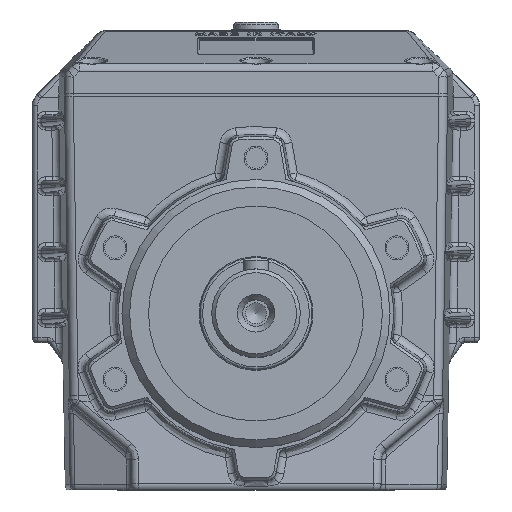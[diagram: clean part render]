
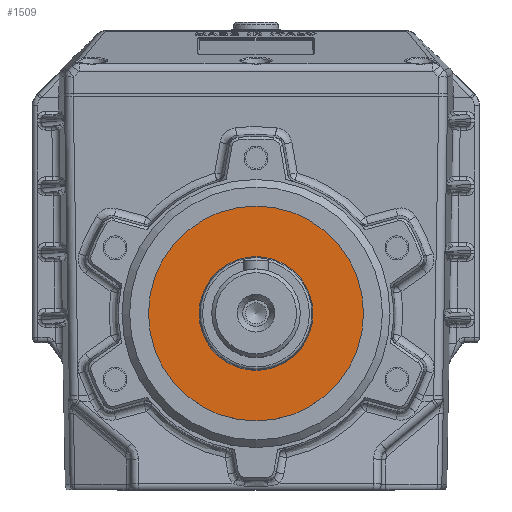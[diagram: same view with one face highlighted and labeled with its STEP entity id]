
A CAD part, top view. The second image highlights one B-rep face of the part: STEP entity #1509.
In plain terms, the highlighted planar face has unit normal (0, 0, 1).
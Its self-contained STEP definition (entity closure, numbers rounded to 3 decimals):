
#1509 = ADVANCED_FACE( '', ( #4099, #4100 ), #4101, .F. );
#4099 = FACE_BOUND( '', #9148, .T. );
#4100 = FACE_OUTER_BOUND( '', #9149, .T. );
#4101 = PLANE( '', #9150 );
#9148 = EDGE_LOOP( '', ( #20377 ) );
#9149 = EDGE_LOOP( '', ( #20378 ) );
#9150 = AXIS2_PLACEMENT_3D( '', #20379, #20380, #20381 );
#20377 = ORIENTED_EDGE( '', *, *, #29296, .T. );
#20378 = ORIENTED_EDGE( '', *, *, #29297, .F. );
#20379 = CARTESIAN_POINT( '', ( 0., 0., 12. ) );
#20380 = DIRECTION( '', ( 0., 0., -1. ) );
#20381 = DIRECTION( '', ( 1., 0., 0. ) );
#29296 = EDGE_CURVE( '', #33759, #33759, #33760, .T. );
#29297 = EDGE_CURVE( '', #33761, #33761, #33762, .T. );
#33759 = VERTEX_POINT( '', #41362 );
#33760 = CIRCLE( '', #41363, 22.5 );
#33761 = VERTEX_POINT( '', #41364 );
#33762 = CIRCLE( '', #41365, 42.5 );
#41362 = CARTESIAN_POINT( '', ( 0., 22.5, 12. ) );
#41363 = AXIS2_PLACEMENT_3D( '', #52309, #52310, #52311 );
#41364 = CARTESIAN_POINT( '', ( 0., 42.5, 12. ) );
#41365 = AXIS2_PLACEMENT_3D( '', #52312, #52313, #52314 );
#52309 = CARTESIAN_POINT( '', ( 0., 0., 12. ) );
#52310 = DIRECTION( '', ( 0., 0., -1. ) );
#52311 = DIRECTION( '', ( 0., 1., 0. ) );
#52312 = CARTESIAN_POINT( '', ( 0., 0., 12. ) );
#52313 = DIRECTION( '', ( 0., 0., -1. ) );
#52314 = DIRECTION( '', ( 0., 1., 0. ) );
